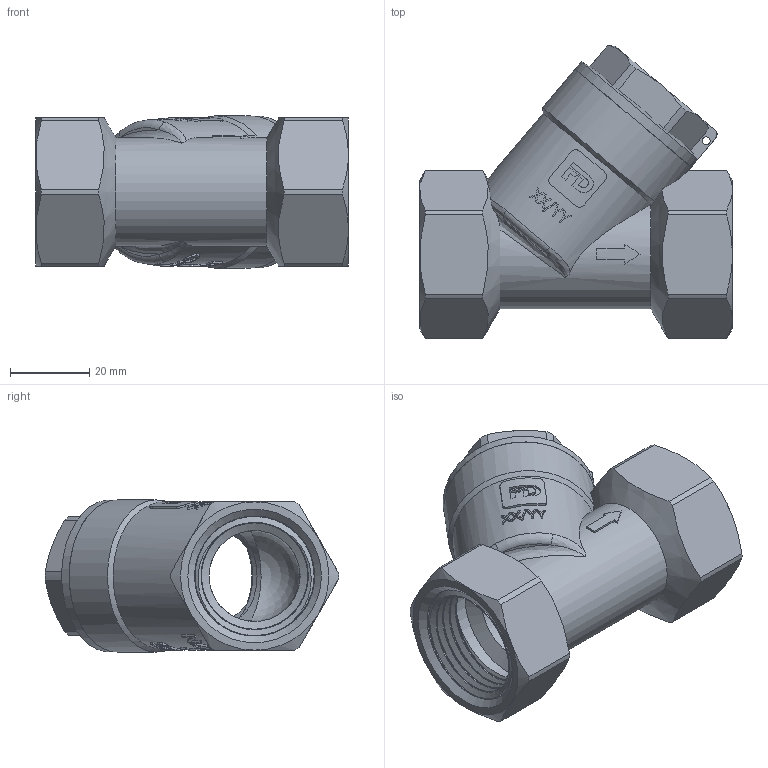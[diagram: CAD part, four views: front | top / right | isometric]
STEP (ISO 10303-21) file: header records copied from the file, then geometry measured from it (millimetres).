
FILE_DESCRIPTION(/* description */ (''),/* implementation_level */ '2;1');
FILE_NAME(/* name */ 'C:\Users\Doom\Desktop\Фадотех\2\F3 11.08.2021\F3 11.08.2021.stp',/* time_stamp */ '2021-12-14T22:17:03+02:00',/* author */ ('Doom'),/* organization */ (''),/* preprocessor_version */ 'ST-DEVELOPER v18',/* originating_system */ 'Autodesk Inventor 2020',/* authorisation */ '');
FILE_SCHEMA (('AUTOMOTIVE_DESIGN { 1 0 10303 214 3 1 1 }'));
Length unit declared in the file: millimetre
Products named in the file (3): F3 11.08.2021; 20-01533-G25-0620-4210; 20-01533-G25-5720
Assembly tree (2 placements, depth 2):
  F3 11.08.2021
    20-01533-G25-0620-4210
    20-01533-G25-5720
Bounding box: 79 x 74.14 x 38.5 mm (x, y, z)
Volume: 55838.4 mm3; surface area: 38229.9 mm2
Topology: 6 solids, 6 shells, 430 faces, 1193 edges, 797 vertices
Faces by surface type: plane 207, bspline 107, cylinder 84, cone 27, torus 4, sphere 1
Full cylindrical faces by diameter (mm): 2 x1, 23 x1, 23.013 x1, 23.356 x1, 23.5 x1, 26.2 x1, 26.876 x8, 26.99 x1, 27.447 x4, 29.776 x2, 29.868 x1, 30.3 x4, 30.871 x2, 33.2 x2, 35.189 x1, 38.5 x1
Entity records: 26378 total; most frequent: CARTESIAN_POINT 15884, ORIENTED_EDGE 2362, DIRECTION 1953, EDGE_CURVE 1181, AXIS2_PLACEMENT_3D 799, VERTEX_POINT 791, EDGE_LOOP 472, FACE_OUTER_BOUND 430
